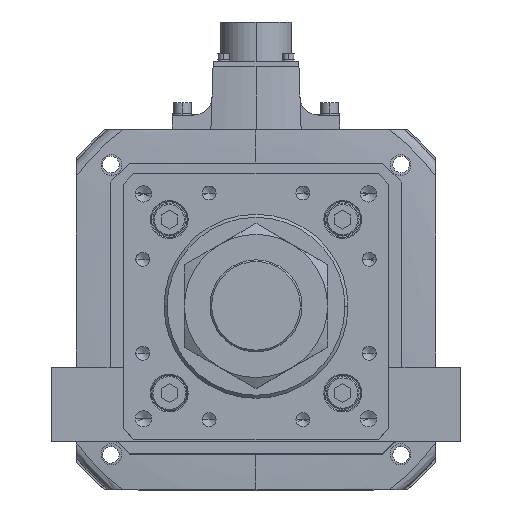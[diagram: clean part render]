
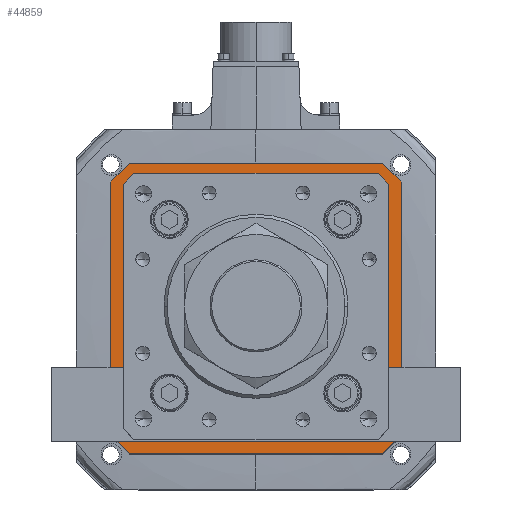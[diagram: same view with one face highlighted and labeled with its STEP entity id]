
A CAD part, top view. The second image highlights one B-rep face of the part: STEP entity #44859.
In plain terms, the highlighted planar face has unit normal (0, 0, 1).
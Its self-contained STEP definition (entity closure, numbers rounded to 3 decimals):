
#265 = PLANE ( 'NONE',  #18804 ) ;
#541 = VERTEX_POINT ( 'NONE', #44118 ) ;
#657 = CARTESIAN_POINT ( 'NONE',  ( 0., 0., -142. ) ) ;
#714 = EDGE_CURVE ( 'NONE', #541, #27957, #11534, .T. ) ;
#754 = VERTEX_POINT ( 'NONE', #12963 ) ;
#1219 = ORIENTED_EDGE ( 'NONE', *, *, #53337, .F. ) ;
#1621 = ORIENTED_EDGE ( 'NONE', *, *, #38316, .F. ) ;
#1655 = LINE ( 'NONE', #11811, #27378 ) ;
#2060 = FACE_BOUND ( 'NONE', #44826, .T. ) ;
#2229 = CARTESIAN_POINT ( 'NONE',  ( -60.896, 60.896, -142. ) ) ;
#2312 = EDGE_CURVE ( 'NONE', #23871, #27410, #29109, .T. ) ;
#2624 = DIRECTION ( 'NONE',  ( 0., 1., 0. ) ) ;
#2697 = ORIENTED_EDGE ( 'NONE', *, *, #714, .T. ) ;
#2804 = VECTOR ( 'NONE', #29969, 1000. ) ;
#2954 = CARTESIAN_POINT ( 'NONE',  ( 0., -63., -142. ) ) ;
#3446 = CARTESIAN_POINT ( 'NONE',  ( -63., -58.793, -142. ) ) ;
#4408 = VERTEX_POINT ( 'NONE', #46910 ) ;
#4428 = VECTOR ( 'NONE', #26897, 1000. ) ;
#4632 = VECTOR ( 'NONE', #11485, 1000. ) ;
#4654 = DIRECTION ( 'NONE',  ( 1., 0., 0. ) ) ;
#5189 = CARTESIAN_POINT ( 'NONE',  ( 60.896, -60.896, -142. ) ) ;
#6096 = LINE ( 'NONE', #30630, #28432 ) ;
#6235 = CARTESIAN_POINT ( 'NONE',  ( -63., 0., -142. ) ) ;
#7038 = EDGE_CURVE ( 'NONE', #33661, #541, #15164, .T. ) ;
#7131 = ORIENTED_EDGE ( 'NONE', *, *, #21565, .T. ) ;
#7151 = CARTESIAN_POINT ( 'NONE',  ( 62., -71., -142. ) ) ;
#7909 = VECTOR ( 'NONE', #15819, 1000. ) ;
#9460 = EDGE_CURVE ( 'NONE', #38922, #27757, #42033, .T. ) ;
#9591 = ORIENTED_EDGE ( 'NONE', *, *, #7038, .T. ) ;
#9895 = ORIENTED_EDGE ( 'NONE', *, *, #2312, .F. ) ;
#10156 = VECTOR ( 'NONE', #40772, 1000. ) ;
#10461 = ORIENTED_EDGE ( 'NONE', *, *, #35782, .F. ) ;
#11301 = DIRECTION ( 'NONE',  ( -1., 0., 0. ) ) ;
#11485 = DIRECTION ( 'NONE',  ( 0., -1., 0. ) ) ;
#11534 = LINE ( 'NONE', #25251, #2804 ) ;
#11668 = CARTESIAN_POINT ( 'NONE',  ( 71., 62., -142. ) ) ;
#11811 = CARTESIAN_POINT ( 'NONE',  ( 62., 71., -142. ) ) ;
#12963 = CARTESIAN_POINT ( 'NONE',  ( 71., -62., -142. ) ) ;
#13017 = VERTEX_POINT ( 'NONE', #41557 ) ;
#13537 = VECTOR ( 'NONE', #2624, 1000. ) ;
#14301 = ORIENTED_EDGE ( 'NONE', *, *, #30351, .T. ) ;
#15164 = LINE ( 'NONE', #2954, #38822 ) ;
#15323 = CARTESIAN_POINT ( 'NONE',  ( 71., 62., -142. ) ) ;
#15819 = DIRECTION ( 'NONE',  ( 0., -1., 0. ) ) ;
#16153 = VERTEX_POINT ( 'NONE', #23359 ) ;
#16538 = CARTESIAN_POINT ( 'NONE',  ( 63., 58.793, -142. ) ) ;
#16944 = CARTESIAN_POINT ( 'NONE',  ( 62., 71., -142. ) ) ;
#17355 = LINE ( 'NONE', #54252, #7909 ) ;
#17603 = EDGE_LOOP ( 'NONE', ( #54273, #31765, #10461, #43835, #9895, #1219, #1621, #44088 ) ) ;
#18624 = EDGE_CURVE ( 'NONE', #48779, #16153, #49214, .T. ) ;
#18804 = AXIS2_PLACEMENT_3D ( 'NONE', #657, #39772, #4654 ) ;
#19919 = CARTESIAN_POINT ( 'NONE',  ( 58.793, 63., -142. ) ) ;
#21353 = CARTESIAN_POINT ( 'NONE',  ( -62., -71., -142. ) ) ;
#21405 = CARTESIAN_POINT ( 'NONE',  ( 0., 63., -142. ) ) ;
#21430 = VERTEX_POINT ( 'NONE', #47385 ) ;
#21521 = LINE ( 'NONE', #22464, #38490 ) ;
#21565 = EDGE_CURVE ( 'NONE', #21430, #33661, #48221, .T. ) ;
#22464 = CARTESIAN_POINT ( 'NONE',  ( 71., -62., -142. ) ) ;
#23359 = CARTESIAN_POINT ( 'NONE',  ( -58.793, 63., -142. ) ) ;
#23363 = VERTEX_POINT ( 'NONE', #33193 ) ;
#23559 = EDGE_CURVE ( 'NONE', #16153, #55728, #48736, .T. ) ;
#23871 = VERTEX_POINT ( 'NONE', #54889 ) ;
#24249 = CARTESIAN_POINT ( 'NONE',  ( 71., 62., -142. ) ) ;
#24592 = ORIENTED_EDGE ( 'NONE', *, *, #32170, .T. ) ;
#25251 = CARTESIAN_POINT ( 'NONE',  ( -60.896, -60.896, -142. ) ) ;
#26106 = DIRECTION ( 'NONE',  ( -0.707, 0.707, 0. ) ) ;
#26897 = DIRECTION ( 'NONE',  ( -0.707, -0.707, 0. ) ) ;
#27224 = VECTOR ( 'NONE', #32949, 1000. ) ;
#27378 = VECTOR ( 'NONE', #32984, 1000. ) ;
#27410 = VERTEX_POINT ( 'NONE', #28265 ) ;
#27757 = VERTEX_POINT ( 'NONE', #15323 ) ;
#27957 = VERTEX_POINT ( 'NONE', #3446 ) ;
#28265 = CARTESIAN_POINT ( 'NONE',  ( -62., -71., -142. ) ) ;
#28432 = VECTOR ( 'NONE', #30441, 1000. ) ;
#28964 = LINE ( 'NONE', #11668, #4632 ) ;
#29109 = LINE ( 'NONE', #7151, #53331 ) ;
#29207 = VECTOR ( 'NONE', #26106, 1000. ) ;
#29969 = DIRECTION ( 'NONE',  ( -0.707, 0.707, 0. ) ) ;
#30351 = EDGE_CURVE ( 'NONE', #27957, #48779, #55931, .T. ) ;
#30441 = DIRECTION ( 'NONE',  ( 0.707, -0.707, 0. ) ) ;
#30630 = CARTESIAN_POINT ( 'NONE',  ( 60.896, 60.896, -142. ) ) ;
#31133 = VECTOR ( 'NONE', #39018, 1000. ) ;
#31765 = ORIENTED_EDGE ( 'NONE', *, *, #44696, .F. ) ;
#32079 = DIRECTION ( 'NONE',  ( 0.707, 0.707, 0. ) ) ;
#32170 = EDGE_CURVE ( 'NONE', #33970, #21430, #17355, .T. ) ;
#32949 = DIRECTION ( 'NONE',  ( 0.707, -0.707, 0. ) ) ;
#32984 = DIRECTION ( 'NONE',  ( 1., 0., 0. ) ) ;
#33193 = CARTESIAN_POINT ( 'NONE',  ( -62., 71., -142. ) ) ;
#33539 = DIRECTION ( 'NONE',  ( -1., 0., 0. ) ) ;
#33661 = VERTEX_POINT ( 'NONE', #52019 ) ;
#33970 = VERTEX_POINT ( 'NONE', #16538 ) ;
#34638 = LINE ( 'NONE', #21353, #29207 ) ;
#35522 = DIRECTION ( 'NONE',  ( -0.707, -0.707, 0. ) ) ;
#35782 = EDGE_CURVE ( 'NONE', #13017, #4408, #51970, .T. ) ;
#36999 = ORIENTED_EDGE ( 'NONE', *, *, #23559, .T. ) ;
#37361 = VECTOR ( 'NONE', #42585, 1000. ) ;
#38316 = EDGE_CURVE ( 'NONE', #27757, #754, #28964, .T. ) ;
#38490 = VECTOR ( 'NONE', #35522, 1000. ) ;
#38822 = VECTOR ( 'NONE', #33539, 1000. ) ;
#38922 = VERTEX_POINT ( 'NONE', #16944 ) ;
#39018 = DIRECTION ( 'NONE',  ( 0.707, 0.707, 0. ) ) ;
#39645 = ORIENTED_EDGE ( 'NONE', *, *, #45328, .T. ) ;
#39772 = DIRECTION ( 'NONE',  ( 0., 0., 1. ) ) ;
#40772 = DIRECTION ( 'NONE',  ( 0., 1., 0. ) ) ;
#40856 = EDGE_CURVE ( 'NONE', #23363, #38922, #1655, .T. ) ;
#41557 = CARTESIAN_POINT ( 'NONE',  ( -71., -62., -142. ) ) ;
#41946 = FACE_OUTER_BOUND ( 'NONE', #17603, .T. ) ;
#42033 = LINE ( 'NONE', #24249, #27224 ) ;
#42585 = DIRECTION ( 'NONE',  ( 1., 0., 0. ) ) ;
#43835 = ORIENTED_EDGE ( 'NONE', *, *, #50969, .F. ) ;
#44088 = ORIENTED_EDGE ( 'NONE', *, *, #9460, .F. ) ;
#44118 = CARTESIAN_POINT ( 'NONE',  ( -58.793, -63., -142. ) ) ;
#44601 = LINE ( 'NONE', #55344, #31133 ) ;
#44696 = EDGE_CURVE ( 'NONE', #4408, #23363, #44601, .T. ) ;
#44826 = EDGE_LOOP ( 'NONE', ( #24592, #7131, #9591, #2697, #14301, #46225, #36999, #39645 ) ) ;
#44859 = ADVANCED_FACE ( 'NONE', ( #2060, #41946 ), #265, .T. ) ;
#45328 = EDGE_CURVE ( 'NONE', #55728, #33970, #6096, .T. ) ;
#46225 = ORIENTED_EDGE ( 'NONE', *, *, #18624, .T. ) ;
#46873 = CARTESIAN_POINT ( 'NONE',  ( -63., 58.793, -142. ) ) ;
#46910 = CARTESIAN_POINT ( 'NONE',  ( -71., 62., -142. ) ) ;
#47385 = CARTESIAN_POINT ( 'NONE',  ( 63., -58.793, -142. ) ) ;
#48221 = LINE ( 'NONE', #5189, #4428 ) ;
#48736 = LINE ( 'NONE', #21405, #37361 ) ;
#48779 = VERTEX_POINT ( 'NONE', #46873 ) ;
#49214 = LINE ( 'NONE', #2229, #54595 ) ;
#50969 = EDGE_CURVE ( 'NONE', #27410, #13017, #34638, .T. ) ;
#51970 = LINE ( 'NONE', #54240, #13537 ) ;
#52019 = CARTESIAN_POINT ( 'NONE',  ( 58.793, -63., -142. ) ) ;
#53331 = VECTOR ( 'NONE', #11301, 1000. ) ;
#53337 = EDGE_CURVE ( 'NONE', #754, #23871, #21521, .T. ) ;
#54240 = CARTESIAN_POINT ( 'NONE',  ( -71., 62., -142. ) ) ;
#54252 = CARTESIAN_POINT ( 'NONE',  ( 63., 0., -142. ) ) ;
#54273 = ORIENTED_EDGE ( 'NONE', *, *, #40856, .F. ) ;
#54595 = VECTOR ( 'NONE', #32079, 1000. ) ;
#54889 = CARTESIAN_POINT ( 'NONE',  ( 62., -71., -142. ) ) ;
#55344 = CARTESIAN_POINT ( 'NONE',  ( -62., 71., -142. ) ) ;
#55728 = VERTEX_POINT ( 'NONE', #19919 ) ;
#55931 = LINE ( 'NONE', #6235, #10156 ) ;
